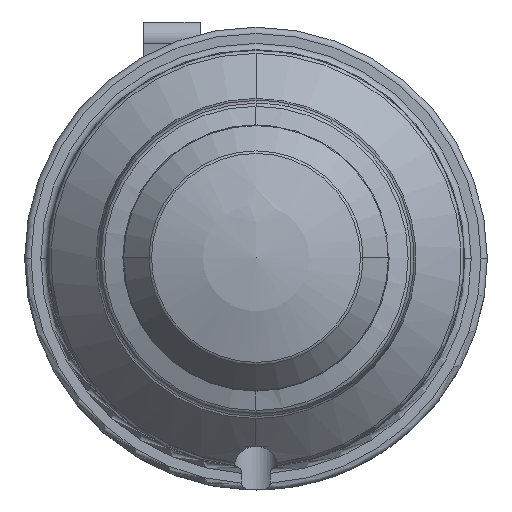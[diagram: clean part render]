
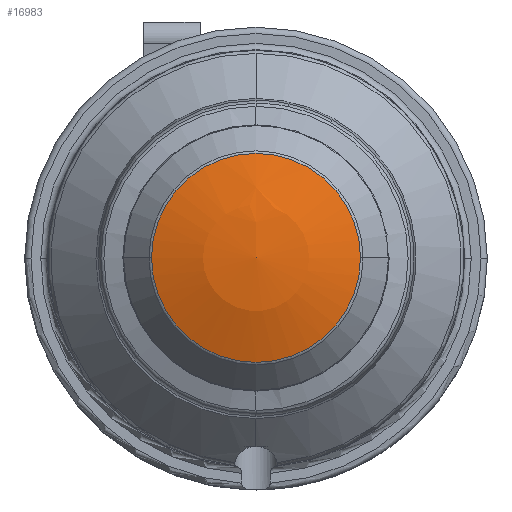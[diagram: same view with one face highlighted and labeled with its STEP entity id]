
A CAD part, top view. The second image highlights one B-rep face of the part: STEP entity #16983.
In plain terms, the highlighted spherical face has radius 35.56 mm.
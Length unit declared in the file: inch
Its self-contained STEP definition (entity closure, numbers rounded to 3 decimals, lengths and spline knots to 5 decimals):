
#322 = ORIENTED_EDGE ( 'NONE', *, *, #28680, .F. ) ;
#2552 = DIRECTION ( 'NONE',  ( 0., 0., -1. ) ) ;
#3208 = DIRECTION ( 'NONE',  ( 0., 0., -1. ) ) ;
#4620 = AXIS2_PLACEMENT_3D ( 'NONE', #16881, #2552, #5687 ) ;
#4628 = EDGE_CURVE ( 'NONE', #22254, #12876, #33982, .T. ) ;
#5487 = SPHERICAL_SURFACE ( 'NONE', #28224, 1.4 ) ;
#5676 = ORIENTED_EDGE ( 'NONE', *, *, #4628, .F. ) ;
#5687 = DIRECTION ( 'NONE',  ( -1., 0., 0. ) ) ;
#7866 = FACE_OUTER_BOUND ( 'NONE', #19413, .T. ) ;
#9666 = CARTESIAN_POINT ( 'NONE',  ( -0.49666, 0., 1.40894 ) ) ;
#12876 = VERTEX_POINT ( 'NONE', #23772 ) ;
#16881 = CARTESIAN_POINT ( 'NONE',  ( 0., 0., 1.40894 ) ) ;
#16983 = ADVANCED_FACE ( 'NONE', ( #7866 ), #5487, .T. ) ;
#17878 = DIRECTION ( 'NONE',  ( 1., 0., 0. ) ) ;
#19247 = DIRECTION ( 'NONE',  ( 0., 1., 0. ) ) ;
#19413 = EDGE_LOOP ( 'NONE', ( #5676, #322 ) ) ;
#20620 = CARTESIAN_POINT ( 'NONE',  ( 0., 0., 1.40894 ) ) ;
#22254 = VERTEX_POINT ( 'NONE', #9666 ) ;
#22635 = CIRCLE ( 'NONE', #23214, 0.49666 ) ;
#23214 = AXIS2_PLACEMENT_3D ( 'NONE', #20620, #3208, #17878 ) ;
#23772 = CARTESIAN_POINT ( 'NONE',  ( 0.49666, 0., 1.40894 ) ) ;
#28224 = AXIS2_PLACEMENT_3D ( 'NONE', #32872, #30294, #19247 ) ;
#28680 = EDGE_CURVE ( 'NONE', #12876, #22254, #22635, .T. ) ;
#30294 = DIRECTION ( 'NONE',  ( 0., 0., 1. ) ) ;
#32872 = CARTESIAN_POINT ( 'NONE',  ( 0., 0., 0.1 ) ) ;
#33982 = CIRCLE ( 'NONE', #4620, 0.49666 ) ;
